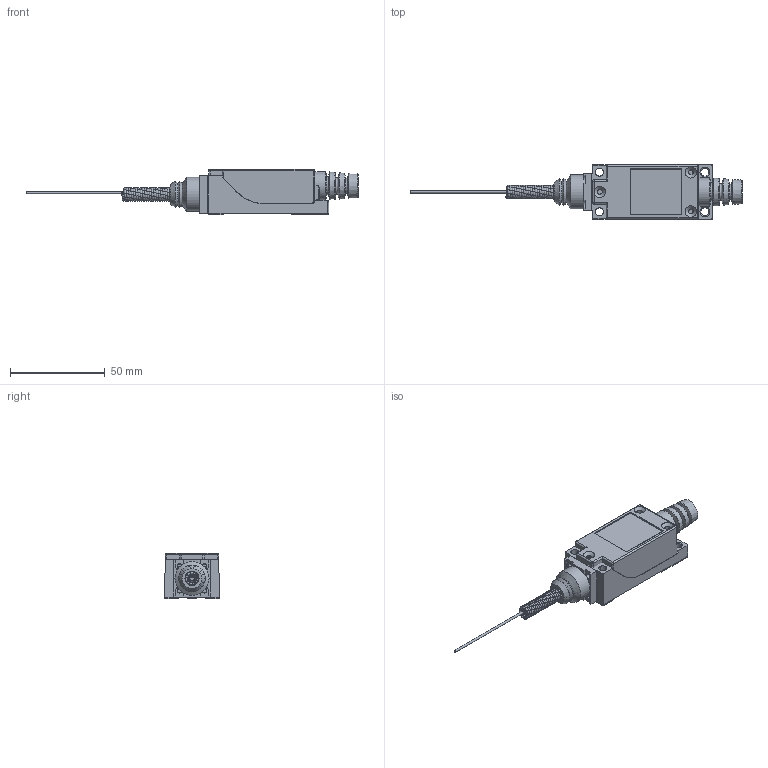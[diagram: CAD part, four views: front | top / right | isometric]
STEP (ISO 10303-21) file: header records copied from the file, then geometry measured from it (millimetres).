
FILE_DESCRIPTION(('FreeCAD Model'),'2;1');
FILE_NAME('Open CASCADE Shape Model','2026-09-09T09:34:35',(''),(''), 'Open CASCADE STEP processor 7.8','FreeCAD','Unknown');
FILE_SCHEMA(('AUTOMOTIVE_DESIGN { 1 0 10303 214 1 1 1 1 }'));
Length unit declared in the file: millimetre
Products named in the file (8): FM8169; TZ-8169; TZ-8170; TZ-8171; TZ-8172; TZ-8173; TZ-8174; TZ-8175
Assembly tree (7 placements, depth 2):
  FM8169
    TZ-8169
    TZ-8170
    TZ-8171
    TZ-8172
    TZ-8173
    TZ-8174
    TZ-8175
Bounding box: 175.57 x 28.81 x 23.81 mm (x, y, z)
Volume: 20409.4 mm3; surface area: 24494.5 mm2
Topology: 7 solids, 7 shells, 699 faces, 1608 edges, 941 vertices
Faces by surface type: torus 262, plane 215, cylinder 138, cone 58, sphere 12, bspline 10, extrusion 4
Full cylindrical faces by diameter (mm): 1.2 x1, 2.6 x4, 3 x3, 3.48 x1, 3.75 x1, 5.8 x1, 6 x3, 7.5 x2, 8 x1, 12.4 x2, 12.5 x2, 13.6 x1, 14.5 x1, 14.6 x1, 15 x1, 15.3 x1, 18 x1
Entity records: 23669 total; most frequent: CARTESIAN_POINT 8308, DIRECTION 3245, ORIENTED_EDGE 3188, EDGE_CURVE 1594, AXIS2_PLACEMENT_3D 1316, VERTEX_POINT 941, FACE_BOUND 763, EDGE_LOOP 763
